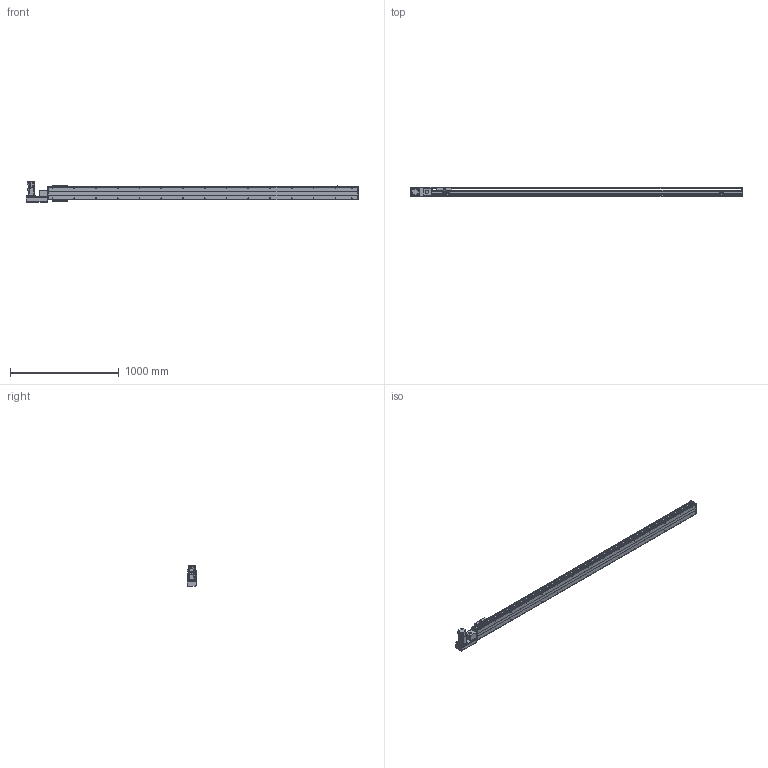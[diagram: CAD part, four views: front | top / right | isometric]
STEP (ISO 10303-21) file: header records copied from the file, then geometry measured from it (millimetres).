
FILE_DESCRIPTION(/* description */ ('STEP AP214'),/* implementation_level */ '2;1');
FILE_NAME(/* name */ 'PBS120-P40-S2550-L-T40-C1-N(0)',/* time_stamp */ '2022-06-05T02:29:27+02:00',/* author */ ('License CC BY-ND 4.0'),/* organization */ ('CADENAS'),/* preprocessor_version */ 'ST-DEVELOPER v18.102',/* originating_system */ 'PARTsolutions',/* authorisation */ ' ');
FILE_SCHEMA (('AUTOMOTIVE_DESIGN {1 0 10303 214 3 1 1}'));
Length unit declared in the file: millimetre
Products named in the file (7): PBS120-P40-S2550-L-T40-C1-N(0); PBS120_sensor; PBS120_plant; PBS120_sliser; T40-p1; PBS120T-L_motors; PBS120-S2550()_body
Assembly tree (8 placements, depth 2):
  PBS120-P40-S2550-L-T40-C1-N(0)
    PBS120_sensor  x3
    PBS120_plant
    PBS120_sliser
    T40-p1
    PBS120T-L_motors
    PBS120-S2550()_body
Bounding box: 3051 x 83 x 189.7 mm (x, y, z)
Volume: 11006471 mm3; surface area: 2276891.2 mm2
Topology: 8 solids, 8 shells, 870 faces, 2226 edges, 1429 vertices
Faces by surface type: plane 563, cylinder 243, cone 62, torus 2
Full cylindrical faces by diameter (mm): 2.459 x6, 3.242 x4, 4 x2, 4.134 x4, 4.5 x10, 4.917 x34, 5.5 x11, 6 x2, 6.6 x1, 7 x2, 8.5 x4, 9 x4, 12 x1, 14 x1, 30 x2, 40 x1, 50 x2
Entity records: 22434 total; most frequent: DIRECTION 3908, CARTESIAN_POINT 3803, ORIENTED_EDGE 3586, EDGE_CURVE 1793, AXIS2_PLACEMENT_3D 1340, VERTEX_POINT 1235, LINE 1228, VECTOR 1228
